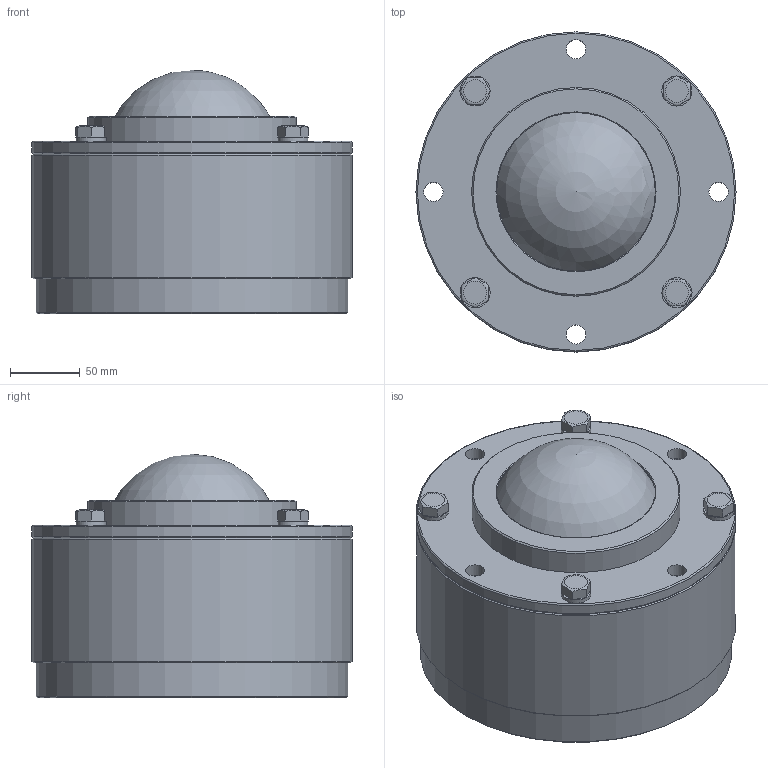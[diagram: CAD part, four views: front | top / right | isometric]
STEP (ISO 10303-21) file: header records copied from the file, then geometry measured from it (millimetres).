
FILE_DESCRIPTION(/* description */ (''),/* implementation_level */ '2;1');
FILE_NAME(/* name */ 'Z:\34-Tei\web 3Dデータ\IS型\IS-127.stp',/* time_stamp */ '2015-01-06T15:21:23+09:00',/* author */ ('yamaki'),/* organization */ (''),/* preprocessor_version */ 'ST-DEVELOPER v15.6',/* originating_system */ 'Autodesk Inventor 2015',/* authorisation */ '');
FILE_SCHEMA (('AUTOMOTIVE_DESIGN { 1 0 10303 214 3 1 1 }'));
Length unit declared in the file: millimetre
Products named in the file (1): IS-127
Bounding box: 230 x 230 x 175 mm (x, y, z)
Volume: 5530830 mm3; surface area: 210587.5 mm2
Topology: 1 solids, 1 shells, 141 faces, 329 edges, 202 vertices
Faces by surface type: plane 86, cylinder 42, torus 7, cone 5, sphere 1
Full cylindrical faces by diameter (mm): 13.835 x4, 14 x4, 21.5 x4, 30 x1, 114 x1, 150 x1, 224 x1, 230 x2
Entity records: 4106 total; most frequent: CARTESIAN_POINT 854, DIRECTION 684, ORIENTED_EDGE 568, EDGE_CURVE 284, AXIS2_PLACEMENT_3D 282, EDGE_LOOP 192, VERTEX_POINT 188, STYLED_ITEM 142
